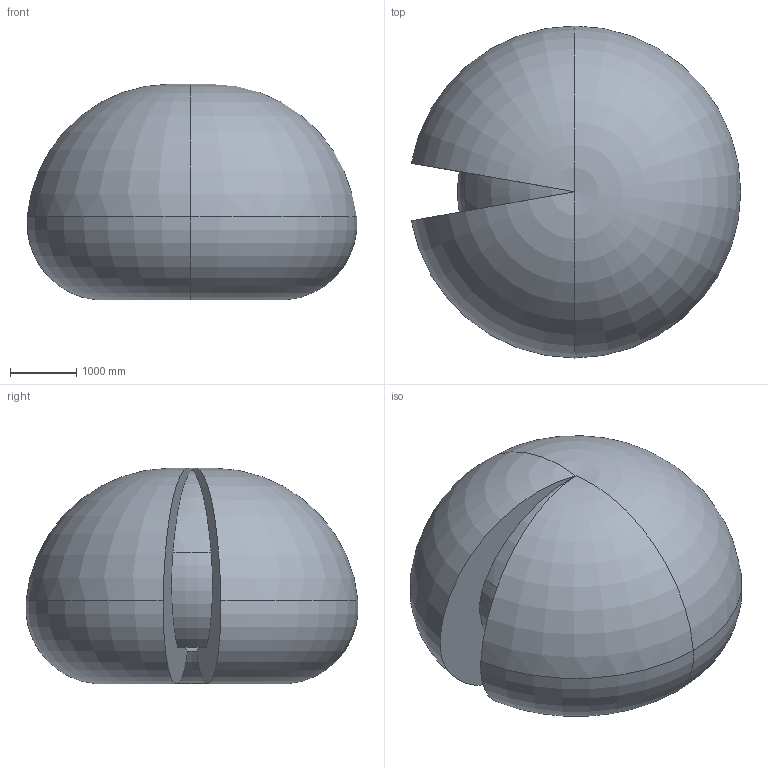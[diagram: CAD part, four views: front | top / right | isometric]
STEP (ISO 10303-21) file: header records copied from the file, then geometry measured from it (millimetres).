
FILE_DESCRIPTION (( 'STEP AP214' ), '1' );
FILE_NAME ('IRB6720-LID_215kg-250_OC_00_Working-space.step', '2026-05-26T07:19:13', ( '' ), ( '' ), 'SwSTEP 2.0', 'SolidWorks 2024', '' );
FILE_SCHEMA (( 'AUTOMOTIVE_DESIGN' ));
Length unit declared in the file: millimetre
Products named in the file (1): IRB6720-LID_215kg-250_OC_00_Working-space
Bounding box: 4955.49 x 4993.42 x 3240.2 mm (x, y, z)
Volume: 41600313415.7 mm3; surface area: 80609355.2 mm2
Topology: 1 solids, 1 shells, 21 faces, 52 edges, 25 vertices
Faces by surface type: torus 19, plane 2
Entity records: 600 total; most frequent: DIRECTION 131, CARTESIAN_POINT 91, ORIENTED_EDGE 88, AXIS2_PLACEMENT_3D 65, EDGE_CURVE 44, CIRCLE 43, VERTEX_POINT 25, EDGE_LOOP 21
